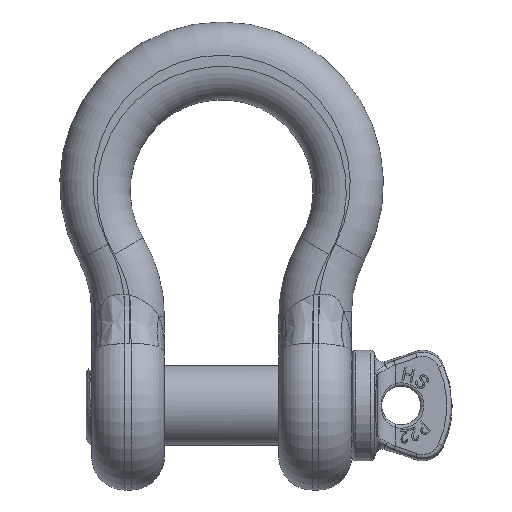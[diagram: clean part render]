
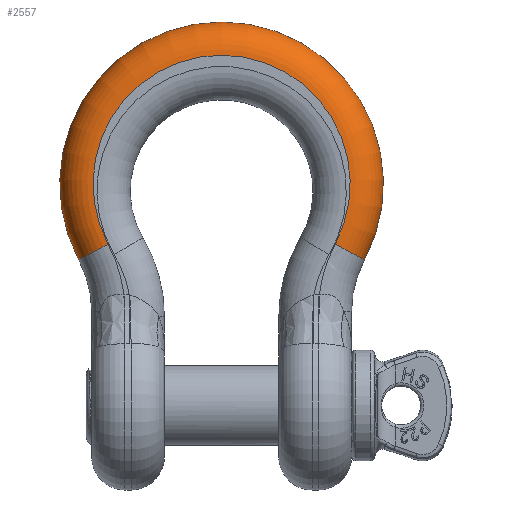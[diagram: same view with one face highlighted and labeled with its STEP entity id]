
A CAD part, top view. The second image highlights one B-rep face of the part: STEP entity #2557.
In plain terms, the highlighted toroidal (fillet/blend) face has major radius 58 mm and minor radius 15 mm.
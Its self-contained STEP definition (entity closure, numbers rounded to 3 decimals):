
#392=TOROIDAL_SURFACE('',#10234,58.,15.);
#2557=ADVANCED_FACE('',(#3346),#392,.T.);
#3346=FACE_OUTER_BOUND('',#3882,.T.);
#3882=EDGE_LOOP('',(#4958,#4959,#4960,#4961));
#4958=ORIENTED_EDGE('',*,*,#8800,.F.);
#4959=ORIENTED_EDGE('',*,*,#8725,.F.);
#4960=ORIENTED_EDGE('',*,*,#8801,.T.);
#4961=ORIENTED_EDGE('',*,*,#8707,.F.);
#7691=VERTEX_POINT('',#14763);
#7692=VERTEX_POINT('',#14765);
#7703=VERTEX_POINT('',#14803);
#7704=VERTEX_POINT('',#14807);
#8707=EDGE_CURVE('',#7691,#7692,#9896,.T.);
#8725=EDGE_CURVE('',#7704,#7703,#9904,.T.);
#8800=EDGE_CURVE('',#7703,#7691,#9930,.T.);
#8801=EDGE_CURVE('',#7704,#7692,#9931,.T.);
#9896=CIRCLE('',#10168,58.);
#9904=CIRCLE('',#10180,73.);
#9930=CIRCLE('',#10231,15.);
#9931=CIRCLE('',#10233,15.);
#10168=AXIS2_PLACEMENT_3D('',#14764,#10897,#10898);
#10180=AXIS2_PLACEMENT_3D('',#14808,#10929,#10930);
#10231=AXIS2_PLACEMENT_3D('',#15113,#11046,#11047);
#10233=AXIS2_PLACEMENT_3D('',#15115,#11050,#11051);
#10234=AXIS2_PLACEMENT_3D('',#15116,#11052,#11053);
#10897=DIRECTION('',(0.,0.,1.));
#10898=DIRECTION('',(-1.,0.,0.));
#10929=DIRECTION('',(0.,0.,-1.));
#10930=DIRECTION('',(-1.,0.,0.));
#11046=DIRECTION('',(-0.47,-0.883,0.));
#11047=DIRECTION('',(-0.883,0.47,0.));
#11050=DIRECTION('',(-0.47,0.883,0.));
#11051=DIRECTION('',(0.883,0.47,0.));
#11052=DIRECTION('',(0.,0.,-1.));
#11053=DIRECTION('',(-1.,0.,0.));
#14763=CARTESIAN_POINT('',(51.21,-27.232,16.4));
#14764=CARTESIAN_POINT('',(0.,0.,16.4));
#14765=CARTESIAN_POINT('',(-51.21,-27.232,16.4));
#14803=CARTESIAN_POINT('',(64.454,-34.274,1.4));
#14807=CARTESIAN_POINT('',(-64.454,-34.274,1.4));
#14808=CARTESIAN_POINT('',(0.,0.,1.4));
#15113=CARTESIAN_POINT('',(51.21,-27.232,1.4));
#15115=CARTESIAN_POINT('',(-51.21,-27.232,1.4));
#15116=CARTESIAN_POINT('',(0.,0.,1.4));
